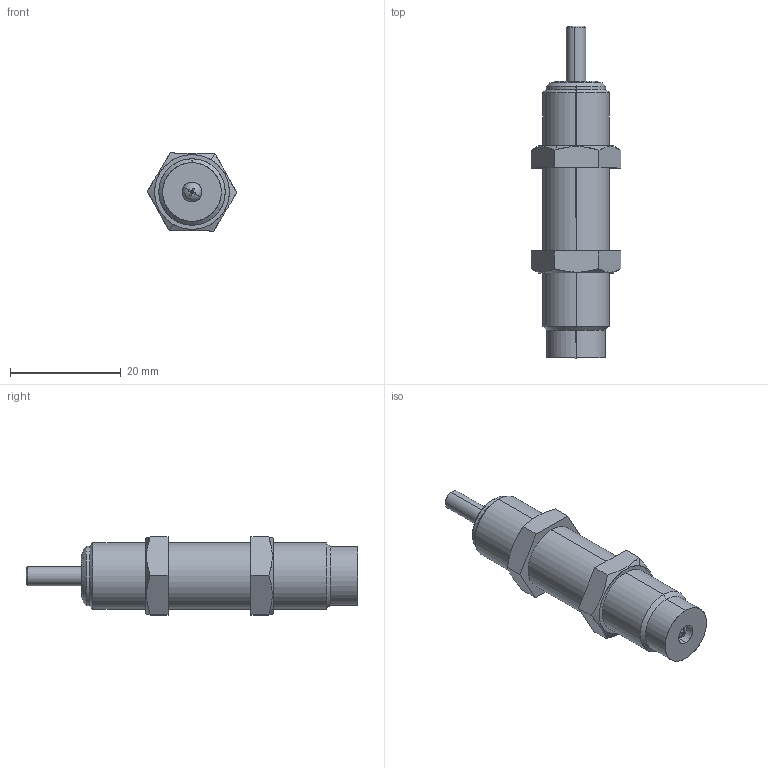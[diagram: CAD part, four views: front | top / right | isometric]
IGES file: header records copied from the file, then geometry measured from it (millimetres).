
Start section: SolidWorks IGES file using analytic representation for surfaces
Bounding box: 16.16 x 60 x 14.12 mm (x, y, z)
Surface area: 3016.6 mm2 (no closed solid volume)
Topology: 0 solids, 0 shells, 58 faces, 772 edges, 772 vertices
Faces by surface type: revolution 30, bspline 28
